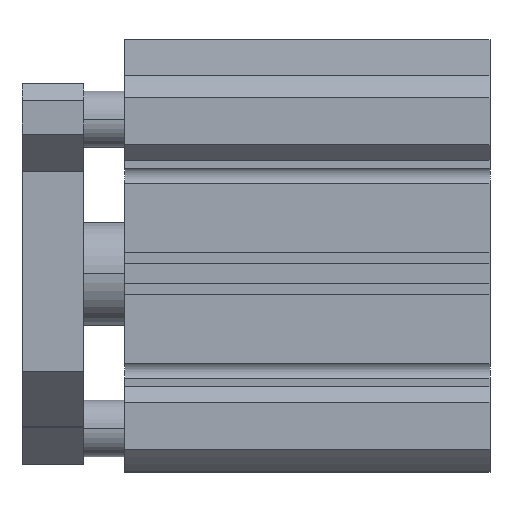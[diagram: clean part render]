
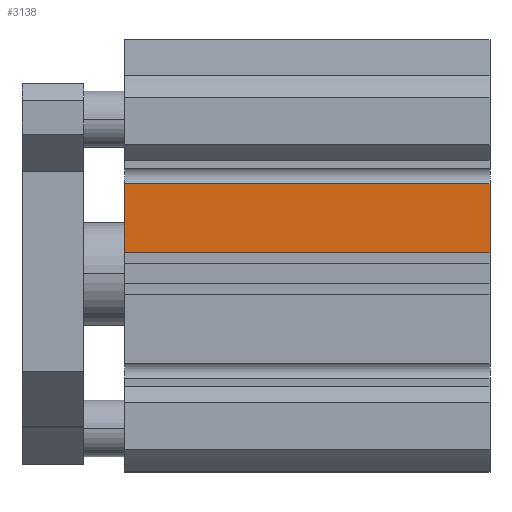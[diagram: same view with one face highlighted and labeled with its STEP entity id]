
A CAD part, top view. The second image highlights one B-rep face of the part: STEP entity #3138.
In plain terms, the highlighted planar face has unit normal (0, 0, 1).
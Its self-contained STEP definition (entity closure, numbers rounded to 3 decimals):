
#202 = EDGE_CURVE ( 'NONE', #4335, #1143, #369, .T. ) ;
#312 = LINE ( 'NONE', #778, #3275 ) ;
#369 = LINE ( 'NONE', #5062, #3457 ) ;
#576 = CARTESIAN_POINT ( 'NONE',  ( 71., 17.5, 35.5 ) ) ;
#619 = ORIENTED_EDGE ( 'NONE', *, *, #202, .T. ) ;
#628 = VECTOR ( 'NONE', #1128, 1000. ) ;
#638 = LINE ( 'NONE', #2522, #1030 ) ;
#661 = ORIENTED_EDGE ( 'NONE', *, *, #1962, .F. ) ;
#738 = VERTEX_POINT ( 'NONE', #1478 ) ;
#778 = CARTESIAN_POINT ( 'NONE',  ( 71., 17.5, 35.5 ) ) ;
#1030 = VECTOR ( 'NONE', #1066, 1000. ) ;
#1066 = DIRECTION ( 'NONE',  ( -1., 0., 0. ) ) ;
#1094 = PLANE ( 'NONE',  #3910 ) ;
#1128 = DIRECTION ( 'NONE',  ( 0., -1., 0. ) ) ;
#1143 = VERTEX_POINT ( 'NONE', #1562 ) ;
#1478 = CARTESIAN_POINT ( 'NONE',  ( 71., 4., 35.5 ) ) ;
#1562 = CARTESIAN_POINT ( 'NONE',  ( 0., 4., 35.5 ) ) ;
#1882 = EDGE_CURVE ( 'NONE', #1911, #738, #3935, .T. ) ;
#1911 = VERTEX_POINT ( 'NONE', #576 ) ;
#1962 = EDGE_CURVE ( 'NONE', #738, #1143, #638, .T. ) ;
#2123 = DIRECTION ( 'NONE',  ( 0., 0., -1. ) ) ;
#2522 = CARTESIAN_POINT ( 'NONE',  ( 71., 4., 35.5 ) ) ;
#2703 = EDGE_LOOP ( 'NONE', ( #619, #661, #4787, #4425 ) ) ;
#3138 = ADVANCED_FACE ( 'NONE', ( #4864 ), #1094, .F. ) ;
#3275 = VECTOR ( 'NONE', #5961, 1000. ) ;
#3457 = VECTOR ( 'NONE', #5114, 1000. ) ;
#3468 = DIRECTION ( 'NONE',  ( 0., -1., 0. ) ) ;
#3910 = AXIS2_PLACEMENT_3D ( 'NONE', #3911, #2123, #3468 ) ;
#3911 = CARTESIAN_POINT ( 'NONE',  ( 71., 17.5, 35.5 ) ) ;
#3935 = LINE ( 'NONE', #5780, #628 ) ;
#4184 = EDGE_CURVE ( 'NONE', #1911, #4335, #312, .T. ) ;
#4335 = VERTEX_POINT ( 'NONE', #4721 ) ;
#4425 = ORIENTED_EDGE ( 'NONE', *, *, #4184, .T. ) ;
#4721 = CARTESIAN_POINT ( 'NONE',  ( 0., 17.5, 35.5 ) ) ;
#4787 = ORIENTED_EDGE ( 'NONE', *, *, #1882, .F. ) ;
#4864 = FACE_OUTER_BOUND ( 'NONE', #2703, .T. ) ;
#5062 = CARTESIAN_POINT ( 'NONE',  ( 0., 17.5, 35.5 ) ) ;
#5114 = DIRECTION ( 'NONE',  ( 0., -1., 0. ) ) ;
#5780 = CARTESIAN_POINT ( 'NONE',  ( 71., 17.5, 35.5 ) ) ;
#5961 = DIRECTION ( 'NONE',  ( -1., 0., 0. ) ) ;
